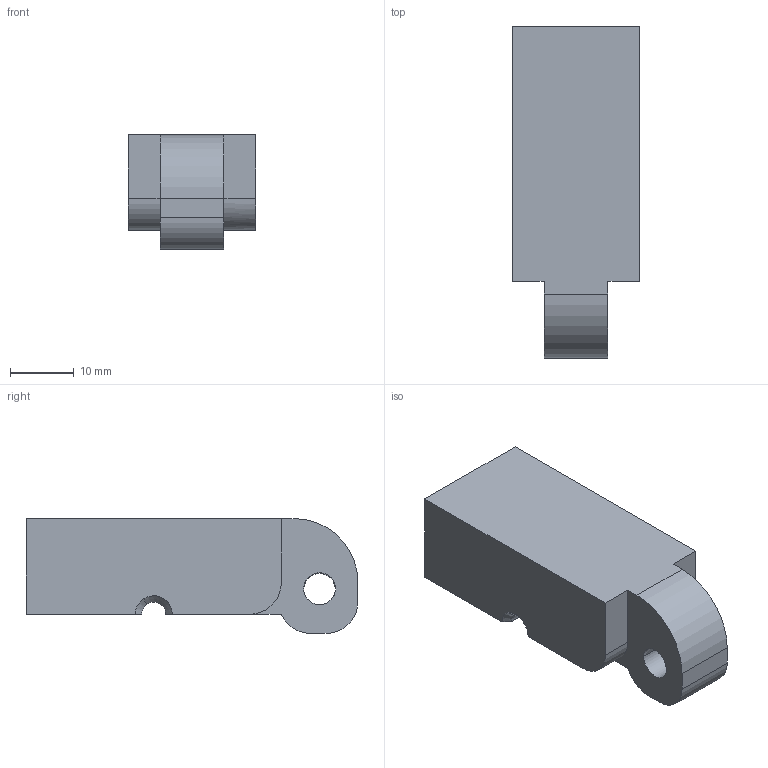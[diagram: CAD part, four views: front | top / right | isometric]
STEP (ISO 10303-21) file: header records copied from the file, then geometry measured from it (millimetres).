
FILE_DESCRIPTION(('CATIA V5 STEP Exchange'),'2;1');
FILE_NAME('C:\Users\hh\Desktop\2.0直通-三通插管治具图纸\TAT0010041-002.stp','2024-07-22T05:15:35+00:00',('none'),('none'),'CATIA Version 5 Release 21 GA (IN-10)','CATIA V5 STEP AP214','none');
FILE_SCHEMA(('AUTOMOTIVE_DESIGN { 1 0 10303 214 1 1 1 1 }'));
Length unit declared in the file: millimetre
Products named in the file (1): 上压块
Bounding box: 20 x 52 x 18 mm (x, y, z)
Volume: 13255.3 mm3; surface area: 4274.8 mm2
Topology: 1 solids, 1 shells, 28 faces, 73 edges, 48 vertices
Faces by surface type: plane 13, cylinder 10, cone 4, extrusion 1
Entity records: 942 total; most frequent: CARTESIAN_POINT 253, ORIENTED_EDGE 146, DIRECTION 114, EDGE_CURVE 73, VERTEX_POINT 48, AXIS2_PLACEMENT_3D 46, VECTOR 45, LINE 44
